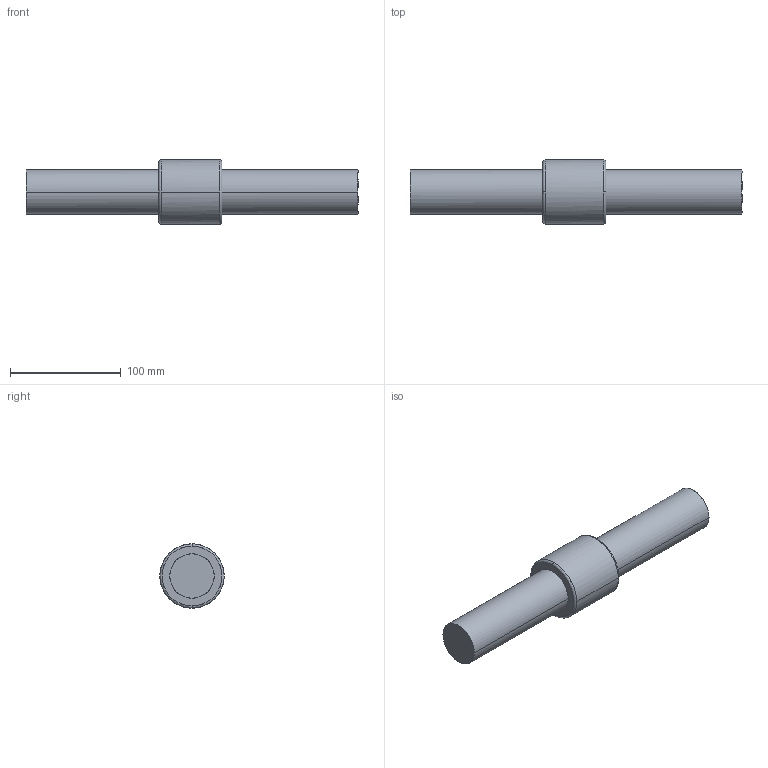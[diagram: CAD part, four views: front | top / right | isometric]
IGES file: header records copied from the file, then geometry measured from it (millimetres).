
Global section: file name: No Iges File Name specified; native system: AutoDesk Inventor R10; preprocessor: AutoDesk Inventor Iges Exporter R10; author: No Author specified; organization: No Organization specified; date: 20101224.154913; units: millimetre
Bounding box: 300 x 58 x 58 mm (x, y, z)
Surface area: 60215.8 mm2 (no closed solid volume)
Topology: 0 solids, 0 shells, 14 faces, 84 edges, 84 vertices
Faces by surface type: bspline 14
